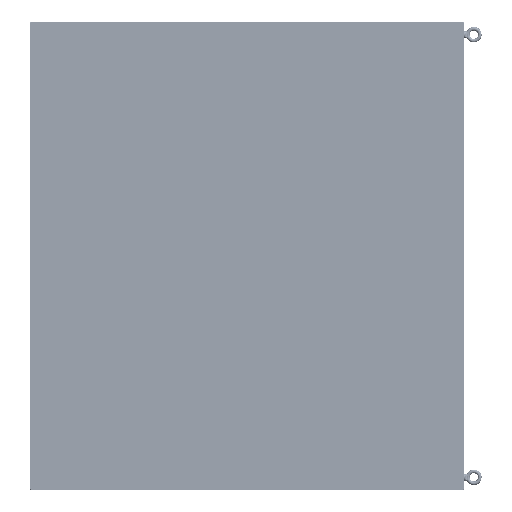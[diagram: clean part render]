
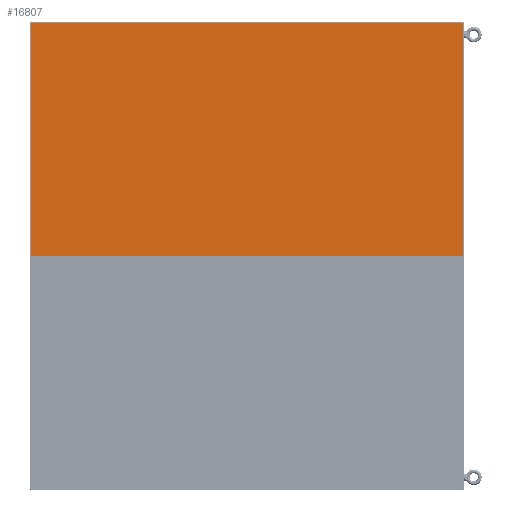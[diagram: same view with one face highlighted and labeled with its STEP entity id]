
A CAD part, left-side view. The second image highlights one B-rep face of the part: STEP entity #16807.
In plain terms, the highlighted planar face has unit normal (-1, 0, 0) as drawn and (0, 0, -1) by its records, which use the part's own axes.
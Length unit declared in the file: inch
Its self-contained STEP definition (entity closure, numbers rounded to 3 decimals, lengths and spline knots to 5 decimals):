
#16564=CARTESIAN_POINT('',(0.03125,-0.03125,-0.104));
#16565=DIRECTION('',(0.,0.,-1.));
#16566=DIRECTION('',(-1.,0.,0.));
#16567=AXIS2_PLACEMENT_3D('',#16564,#16565,#16566);
#16572=DIRECTION('',(0.,1.,0.));
#16573=VECTOR('',#16572,71.7295);
#16574=CARTESIAN_POINT('',(0.,-71.76075,-0.104));
#16575=LINE('',#16574,#16573);
#16579=CARTESIAN_POINT('',(0.03125,-71.76075,-0.104));
#16580=DIRECTION('',(0.,0.,-1.));
#16581=DIRECTION('',(0.,-1.,0.));
#16582=AXIS2_PLACEMENT_3D('',#16579,#16580,#16581);
#16587=DIRECTION('',(1.,0.,0.));
#16588=VECTOR('',#16587,38.7085);
#16589=CARTESIAN_POINT('',(0.03125,-71.792,-0.104));
#16590=LINE('',#16589,#16588);
#16594=CARTESIAN_POINT('',(38.73975,-71.76075,-0.104));
#16595=DIRECTION('',(0.,0.,-1.));
#16596=DIRECTION('',(1.,0.,0.));
#16597=AXIS2_PLACEMENT_3D('',#16594,#16595,#16596);
#16602=DIRECTION('',(0.,1.,0.));
#16603=VECTOR('',#16602,71.7295);
#16604=CARTESIAN_POINT('',(38.771,-71.76075,-0.104));
#16605=LINE('',#16604,#16603);
#16609=CARTESIAN_POINT('',(38.73975,-0.03125,-0.104));
#16610=DIRECTION('',(0.,0.,-1.));
#16611=DIRECTION('',(0.,1.,0.));
#16612=AXIS2_PLACEMENT_3D('',#16609,#16610,#16611);
#16617=DIRECTION('',(-1.,0.,0.));
#16618=VECTOR('',#16617,38.7085);
#16619=CARTESIAN_POINT('',(38.73975,0.,-0.104));
#16620=LINE('',#16619,#16618);
#16628=CARTESIAN_POINT('',(0.,-0.03125,-0.104));
#16629=VERTEX_POINT('',#16628);
#16630=CARTESIAN_POINT('',(0.03125,0.,-0.104));
#16631=VERTEX_POINT('',#16630);
#16636=CARTESIAN_POINT('',(0.03125,-71.792,-0.104));
#16637=VERTEX_POINT('',#16636);
#16638=CARTESIAN_POINT('',(0.,-71.76075,-0.104));
#16639=VERTEX_POINT('',#16638);
#16644=CARTESIAN_POINT('',(38.771,-71.76075,-0.104));
#16645=VERTEX_POINT('',#16644);
#16646=CARTESIAN_POINT('',(38.73975,-71.792,-0.104));
#16647=VERTEX_POINT('',#16646);
#16652=CARTESIAN_POINT('',(38.73975,0.,-0.104));
#16653=VERTEX_POINT('',#16652);
#16654=CARTESIAN_POINT('',(38.771,-0.03125,-0.104));
#16655=VERTEX_POINT('',#16654);
#16792=CARTESIAN_POINT('',(0.,0.,-0.104));
#16793=DIRECTION('',(0.,0.,1.));
#16794=DIRECTION('',(1.,0.,0.));
#16795=AXIS2_PLACEMENT_3D('',#16792,#16793,#16794);
#16796=PLANE('',#16795);
#16797=ORIENTED_EDGE('',*,*,#16688,.F.);
#16798=ORIENTED_EDGE('',*,*,#16704,.F.);
#16799=ORIENTED_EDGE('',*,*,#16717,.F.);
#16800=ORIENTED_EDGE('',*,*,#16732,.T.);
#16801=ORIENTED_EDGE('',*,*,#16745,.F.);
#16802=ORIENTED_EDGE('',*,*,#16760,.T.);
#16803=ORIENTED_EDGE('',*,*,#16773,.F.);
#16804=ORIENTED_EDGE('',*,*,#16785,.T.);
#16805=EDGE_LOOP('',(#16797,#16798,#16799,#16800,#16801,#16802,#16803,#16804));
#16806=FACE_OUTER_BOUND('',#16805,.F.);
#16568=CIRCLE('',#16567,0.03125);
#16583=CIRCLE('',#16582,0.03125);
#16598=CIRCLE('',#16597,0.03125);
#16613=CIRCLE('',#16612,0.03125);
#16688=EDGE_CURVE('',#16629,#16631,#16568,.T.);
#16704=EDGE_CURVE('',#16639,#16629,#16575,.T.);
#16717=EDGE_CURVE('',#16637,#16639,#16583,.T.);
#16732=EDGE_CURVE('',#16637,#16647,#16590,.T.);
#16745=EDGE_CURVE('',#16645,#16647,#16598,.T.);
#16760=EDGE_CURVE('',#16645,#16655,#16605,.T.);
#16773=EDGE_CURVE('',#16653,#16655,#16613,.T.);
#16785=EDGE_CURVE('',#16653,#16631,#16620,.T.);
#16807=ADVANCED_FACE('',(#16806),#16796,.F.);
